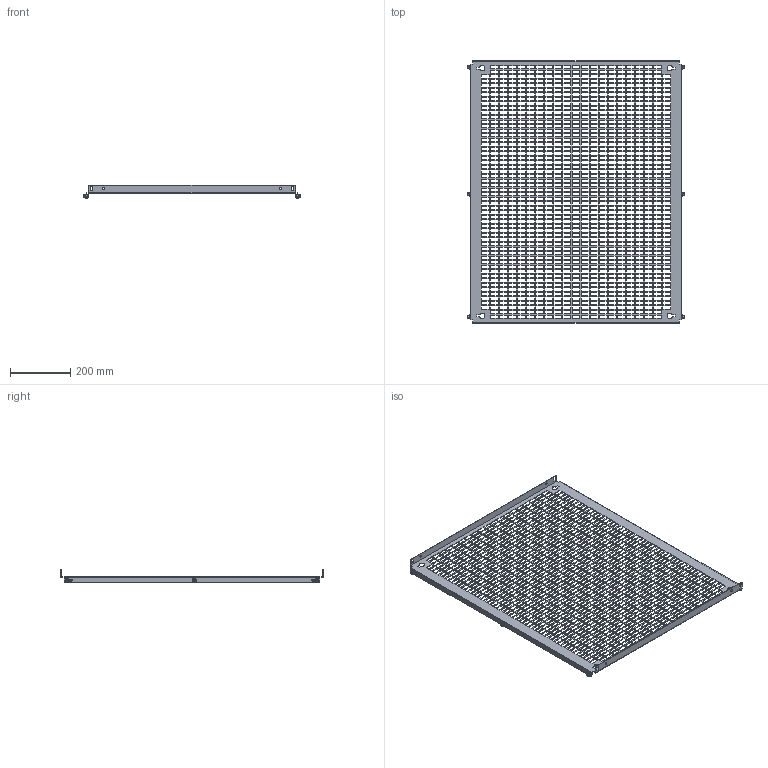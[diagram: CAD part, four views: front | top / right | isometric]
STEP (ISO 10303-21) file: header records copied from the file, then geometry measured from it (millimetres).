
FILE_DESCRIPTION(('Open CASCADE Model'),'2;1');
FILE_NAME('Open CASCADE Shape Model','2025-02-19T16:52:29',('Author'),( 'Open CASCADE'),'Open CASCADE STEP processor 7.8','Open CASCADE 7.8' ,'Unknown');
FILE_SCHEMA(('AUTOMOTIVE_DESIGN { 1 0 10303 214 1 1 1 1 }'));
Length unit declared in the file: millimetre
Products named in the file (4): Compound1; Solid1; Solid2; Solid3
Assembly tree (13 placements, depth 2):
  Compound1
    Solid1
    Solid2  x6
    Solid3  x6
Bounding box: 720 x 869 x 43 mm (x, y, z)
Volume: 675364.3 mm3; surface area: 855145.3 mm2
Topology: 13 solids, 13 shells, 5068 faces, 14947 edges, 9911 vertices
Faces by surface type: plane 4840, cone 102, bspline 72, cylinder 36, torus 18
Full cylindrical faces by diameter (mm): 5 x6, 6 x12, 7 x14
Entity records: 163670 total; most frequent: CARTESIAN_POINT 29379, ORIENTED_EDGE 28764, DIRECTION 23990, EDGE_CURVE 14382, LINE 14224, VECTOR 14224, VERTEX_POINT 9581, FACE_BOUND 7191
